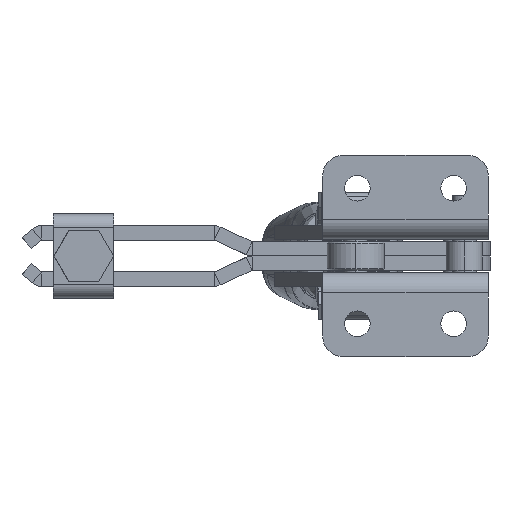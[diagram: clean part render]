
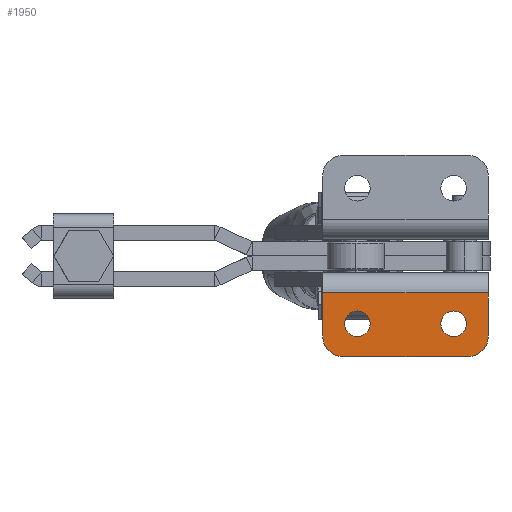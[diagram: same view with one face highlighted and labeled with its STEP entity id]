
A CAD part, front view. The second image highlights one B-rep face of the part: STEP entity #1950.
In plain terms, the highlighted planar face has unit normal (0, -1, 0).
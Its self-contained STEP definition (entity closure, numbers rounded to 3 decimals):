
#474 = CARTESIAN_POINT ( 'NONE',  ( -27.5, 21.37, -58.112 ) ) ;
#712 = VERTEX_POINT ( 'NONE', #21131 ) ;
#1337 = EDGE_CURVE ( 'NONE', #14250, #25377, #18044, .T. ) ;
#1387 = VECTOR ( 'NONE', #6630, 1000. ) ;
#1448 = VECTOR ( 'NONE', #4734, 1000. ) ;
#1619 = CARTESIAN_POINT ( 'NONE',  ( 27.5, 21.37, 2. ) ) ;
#1687 = CIRCLE ( 'NONE', #10620, 7. ) ;
#1908 = EDGE_CURVE ( 'NONE', #22469, #14250, #1687, .T. ) ;
#1923 = AXIS2_PLACEMENT_3D ( 'NONE', #8209, #22245, #10216 ) ;
#1950 = ADVANCED_FACE ( 'NONE', ( #10519, #5133, #17109 ), #24525, .F. ) ;
#2386 = DIRECTION ( 'NONE',  ( 0., 1., 0. ) ) ;
#2493 = CARTESIAN_POINT ( 'NONE',  ( 16., 21.37, 12.248 ) ) ;
#2526 = CIRCLE ( 'NONE', #22365, 4.25 ) ;
#2574 = DIRECTION ( 'NONE',  ( 1., 0., 0. ) ) ;
#2580 = CARTESIAN_POINT ( 'NONE',  ( -20.5, 21.37, 23.248 ) ) ;
#3761 = ORIENTED_EDGE ( 'NONE', *, *, #23664, .F. ) ;
#4095 = CIRCLE ( 'NONE', #8070, 7. ) ;
#4455 = VERTEX_POINT ( 'NONE', #1619 ) ;
#4518 = DIRECTION ( 'NONE',  ( 0., 1., 0. ) ) ;
#4734 = DIRECTION ( 'NONE',  ( 0., 0., -1. ) ) ;
#4742 = EDGE_CURVE ( 'NONE', #712, #18987, #22987, .T. ) ;
#4803 = EDGE_CURVE ( 'NONE', #13344, #22469, #17020, .T. ) ;
#4851 = DIRECTION ( 'NONE',  ( 1., 0., 0. ) ) ;
#5128 = CARTESIAN_POINT ( 'NONE',  ( -27.5, 21.37, 2. ) ) ;
#5133 = FACE_BOUND ( 'NONE', #20924, .T. ) ;
#5135 = ORIENTED_EDGE ( 'NONE', *, *, #4803, .F. ) ;
#6321 = VECTOR ( 'NONE', #24545, 1000. ) ;
#6630 = DIRECTION ( 'NONE',  ( -1., 0., 0. ) ) ;
#7005 = EDGE_CURVE ( 'NONE', #18367, #17471, #2526, .T. ) ;
#7121 = ORIENTED_EDGE ( 'NONE', *, *, #4742, .T. ) ;
#7996 = VERTEX_POINT ( 'NONE', #21087 ) ;
#8070 = AXIS2_PLACEMENT_3D ( 'NONE', #10568, #24590, #12610 ) ;
#8209 = CARTESIAN_POINT ( 'NONE',  ( -16., 21.37, 12.248 ) ) ;
#8445 = CARTESIAN_POINT ( 'NONE',  ( 16., 21.37, 12.248 ) ) ;
#8598 = CARTESIAN_POINT ( 'NONE',  ( 38.5, 21.37, 23.248 ) ) ;
#9806 = ORIENTED_EDGE ( 'NONE', *, *, #14657, .F. ) ;
#9966 = ORIENTED_EDGE ( 'NONE', *, *, #11359, .T. ) ;
#10216 = DIRECTION ( 'NONE',  ( 1., 0., 0. ) ) ;
#10300 = EDGE_CURVE ( 'NONE', #7996, #4455, #22208, .T. ) ;
#10449 = DIRECTION ( 'NONE',  ( 1., 0., 0. ) ) ;
#10519 = FACE_OUTER_BOUND ( 'NONE', #26042, .T. ) ;
#10568 = CARTESIAN_POINT ( 'NONE',  ( 20.5, 21.37, 16.248 ) ) ;
#10597 = CARTESIAN_POINT ( 'NONE',  ( 20.5, 21.37, 23.248 ) ) ;
#10620 = AXIS2_PLACEMENT_3D ( 'NONE', #14454, #2386, #16458 ) ;
#11359 = EDGE_CURVE ( 'NONE', #18987, #712, #15891, .T. ) ;
#11781 = ORIENTED_EDGE ( 'NONE', *, *, #7005, .T. ) ;
#12610 = DIRECTION ( 'NONE',  ( 1., 0., 0. ) ) ;
#12621 = CARTESIAN_POINT ( 'NONE',  ( 38.5, 21.37, -58.112 ) ) ;
#13344 = VERTEX_POINT ( 'NONE', #5128 ) ;
#14250 = VERTEX_POINT ( 'NONE', #2580 ) ;
#14454 = CARTESIAN_POINT ( 'NONE',  ( -20.5, 21.37, 16.248 ) ) ;
#14628 = DIRECTION ( 'NONE',  ( 0., 1., 0. ) ) ;
#14657 = EDGE_CURVE ( 'NONE', #25377, #7996, #4095, .T. ) ;
#15614 = AXIS2_PLACEMENT_3D ( 'NONE', #16575, #4518, #18557 ) ;
#15891 = CIRCLE ( 'NONE', #1923, 4.25 ) ;
#16279 = ORIENTED_EDGE ( 'NONE', *, *, #10300, .F. ) ;
#16458 = DIRECTION ( 'NONE',  ( 1., 0., 0. ) ) ;
#16560 = DIRECTION ( 'NONE',  ( 0., 1., 0. ) ) ;
#16575 = CARTESIAN_POINT ( 'NONE',  ( -16., 21.37, 12.248 ) ) ;
#16799 = ORIENTED_EDGE ( 'NONE', *, *, #24746, .T. ) ;
#16894 = ORIENTED_EDGE ( 'NONE', *, *, #1908, .F. ) ;
#17020 = LINE ( 'NONE', #474, #6321 ) ;
#17109 = FACE_BOUND ( 'NONE', #20275, .T. ) ;
#17471 = VERTEX_POINT ( 'NONE', #17987 ) ;
#17757 = CARTESIAN_POINT ( 'NONE',  ( 11.75, 21.37, 12.248 ) ) ;
#17987 = CARTESIAN_POINT ( 'NONE',  ( 20.25, 21.37, 12.248 ) ) ;
#18044 = LINE ( 'NONE', #8598, #19280 ) ;
#18367 = VERTEX_POINT ( 'NONE', #17757 ) ;
#18557 = DIRECTION ( 'NONE',  ( 1., 0., 0. ) ) ;
#18776 = CARTESIAN_POINT ( 'NONE',  ( 27.5, 21.37, -58.112 ) ) ;
#18987 = VERTEX_POINT ( 'NONE', #22224 ) ;
#19263 = AXIS2_PLACEMENT_3D ( 'NONE', #8445, #22459, #10449 ) ;
#19280 = VECTOR ( 'NONE', #20587, 1000. ) ;
#20275 = EDGE_LOOP ( 'NONE', ( #7121, #9966 ) ) ;
#20551 = CARTESIAN_POINT ( 'NONE',  ( -27.5, 21.37, 16.248 ) ) ;
#20587 = DIRECTION ( 'NONE',  ( 1., 0., 0. ) ) ;
#20664 = CARTESIAN_POINT ( 'NONE',  ( 38.5, 21.37, 2. ) ) ;
#20811 = ORIENTED_EDGE ( 'NONE', *, *, #1337, .F. ) ;
#20924 = EDGE_LOOP ( 'NONE', ( #16799, #11781 ) ) ;
#21087 = CARTESIAN_POINT ( 'NONE',  ( 27.5, 21.37, 16.248 ) ) ;
#21131 = CARTESIAN_POINT ( 'NONE',  ( -11.75, 21.37, 12.248 ) ) ;
#22146 = LINE ( 'NONE', #20664, #1387 ) ;
#22208 = LINE ( 'NONE', #18776, #1448 ) ;
#22224 = CARTESIAN_POINT ( 'NONE',  ( -20.25, 21.37, 12.248 ) ) ;
#22245 = DIRECTION ( 'NONE',  ( 0., 1., 0. ) ) ;
#22365 = AXIS2_PLACEMENT_3D ( 'NONE', #2493, #16560, #4851 ) ;
#22425 = CIRCLE ( 'NONE', #19263, 4.25 ) ;
#22459 = DIRECTION ( 'NONE',  ( 0., 1., 0. ) ) ;
#22469 = VERTEX_POINT ( 'NONE', #20551 ) ;
#22987 = CIRCLE ( 'NONE', #15614, 4.25 ) ;
#23664 = EDGE_CURVE ( 'NONE', #4455, #13344, #22146, .T. ) ;
#24034 = AXIS2_PLACEMENT_3D ( 'NONE', #12621, #14628, #2574 ) ;
#24525 = PLANE ( 'NONE',  #24034 ) ;
#24545 = DIRECTION ( 'NONE',  ( 0., 0., 1. ) ) ;
#24590 = DIRECTION ( 'NONE',  ( 0., 1., 0. ) ) ;
#24746 = EDGE_CURVE ( 'NONE', #17471, #18367, #22425, .T. ) ;
#25377 = VERTEX_POINT ( 'NONE', #10597 ) ;
#26042 = EDGE_LOOP ( 'NONE', ( #3761, #16279, #9806, #20811, #16894, #5135 ) ) ;
